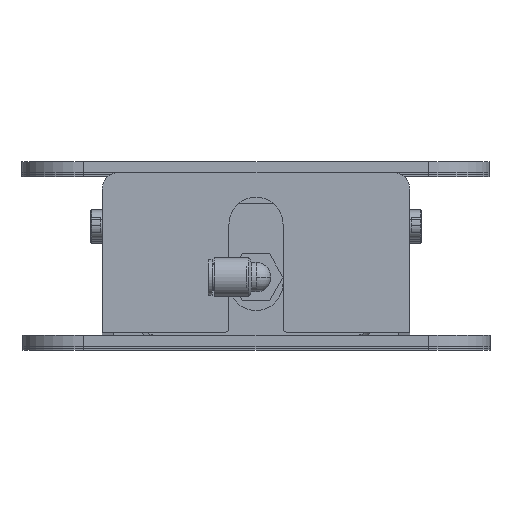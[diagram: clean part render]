
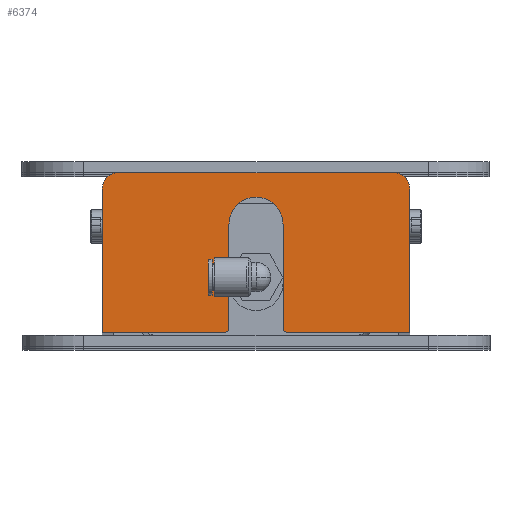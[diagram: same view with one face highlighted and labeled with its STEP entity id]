
A CAD part, top view. The second image highlights one B-rep face of the part: STEP entity #6374.
In plain terms, the highlighted planar face has unit normal (0, 0, 1).
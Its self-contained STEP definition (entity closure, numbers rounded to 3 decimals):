
#45 = VERTEX_POINT ( 'NONE', #7494 ) ;
#87 = AXIS2_PLACEMENT_3D ( 'NONE', #3234, #8115, #3945 ) ;
#248 = EDGE_LOOP ( 'NONE', ( #8595, #3390, #3238, #6671, #5521, #4453, #988, #3228, #268, #8020, #7185, #5479 ) ) ;
#268 = ORIENTED_EDGE ( 'NONE', *, *, #4940, .T. ) ;
#286 = CARTESIAN_POINT ( 'NONE',  ( 62.5, -32.5, 1000. ) ) ;
#363 = PLANE ( 'NONE',  #570 ) ;
#522 = EDGE_CURVE ( 'NONE', #1656, #3233, #2544, .T. ) ;
#570 = AXIS2_PLACEMENT_3D ( 'NONE', #1072, #8083, #3914 ) ;
#578 = CARTESIAN_POINT ( 'NONE',  ( -55.75, 32.5, 1000. ) ) ;
#753 = VERTEX_POINT ( 'NONE', #8327 ) ;
#803 = VERTEX_POINT ( 'NONE', #6333 ) ;
#891 = EDGE_CURVE ( 'NONE', #4866, #4542, #4031, .T. ) ;
#951 = DIRECTION ( 'NONE',  ( 1., 0., 0. ) ) ;
#988 = ORIENTED_EDGE ( 'NONE', *, *, #7020, .T. ) ;
#1072 = CARTESIAN_POINT ( 'NONE',  ( 0., 0., 1000. ) ) ;
#1233 = EDGE_CURVE ( 'NONE', #5850, #6494, #5686, .T. ) ;
#1392 = DIRECTION ( 'NONE',  ( 0., 0., 1. ) ) ;
#1396 = VECTOR ( 'NONE', #5864, 1000. ) ;
#1481 = VECTOR ( 'NONE', #5170, 1000. ) ;
#1493 = AXIS2_PLACEMENT_3D ( 'NONE', #2855, #7746, #3560 ) ;
#1598 = CIRCLE ( 'NONE', #7069, 6.75 ) ;
#1656 = VERTEX_POINT ( 'NONE', #3087 ) ;
#1911 = CARTESIAN_POINT ( 'NONE',  ( -11., -30.5, 1000. ) ) ;
#2093 = VERTEX_POINT ( 'NONE', #5839 ) ;
#2193 = EDGE_CURVE ( 'NONE', #2093, #4542, #5339, .T. ) ;
#2206 = CIRCLE ( 'NONE', #87, 11. ) ;
#2445 = CARTESIAN_POINT ( 'NONE',  ( -13., -30.5, 1000. ) ) ;
#2544 = LINE ( 'NONE', #4530, #5861 ) ;
#2714 = VECTOR ( 'NONE', #4876, 1000. ) ;
#2855 = CARTESIAN_POINT ( 'NONE',  ( -55.75, 25.75, 1000. ) ) ;
#3087 = CARTESIAN_POINT ( 'NONE',  ( -62.5, 25.75, 1000. ) ) ;
#3147 = DIRECTION ( 'NONE',  ( 1., 0., 0. ) ) ;
#3228 = ORIENTED_EDGE ( 'NONE', *, *, #522, .T. ) ;
#3233 = VERTEX_POINT ( 'NONE', #4824 ) ;
#3234 = CARTESIAN_POINT ( 'NONE',  ( 0., 11.5, 1000. ) ) ;
#3238 = ORIENTED_EDGE ( 'NONE', *, *, #4648, .T. ) ;
#3373 = LINE ( 'NONE', #4316, #5055 ) ;
#3390 = ORIENTED_EDGE ( 'NONE', *, *, #8660, .T. ) ;
#3560 = DIRECTION ( 'NONE',  ( 1., 0., 0. ) ) ;
#3886 = CARTESIAN_POINT ( 'NONE',  ( 13., -30.5, 1000. ) ) ;
#3914 = DIRECTION ( 'NONE',  ( 1., 0., 0. ) ) ;
#3945 = DIRECTION ( 'NONE',  ( 1., 0., 0. ) ) ;
#4031 = LINE ( 'NONE', #5038, #7302 ) ;
#4316 = CARTESIAN_POINT ( 'NONE',  ( 11., -32.5, 1000. ) ) ;
#4453 = ORIENTED_EDGE ( 'NONE', *, *, #5831, .T. ) ;
#4485 = CARTESIAN_POINT ( 'NONE',  ( -62.5, -32.5, 1000. ) ) ;
#4530 = CARTESIAN_POINT ( 'NONE',  ( -62.5, 32.5, 1000. ) ) ;
#4542 = VERTEX_POINT ( 'NONE', #1911 ) ;
#4611 = DIRECTION ( 'NONE',  ( 1., 0., 0. ) ) ;
#4614 = LINE ( 'NONE', #7621, #2714 ) ;
#4648 = EDGE_CURVE ( 'NONE', #45, #5850, #4614, .T. ) ;
#4815 = CARTESIAN_POINT ( 'NONE',  ( 62.5, 25.75, 1000. ) ) ;
#4824 = CARTESIAN_POINT ( 'NONE',  ( -62.5, -32.5, 1000. ) ) ;
#4866 = VERTEX_POINT ( 'NONE', #5037 ) ;
#4876 = DIRECTION ( 'NONE',  ( 1., 0., 0. ) ) ;
#4940 = EDGE_CURVE ( 'NONE', #3233, #2093, #8933, .T. ) ;
#5037 = CARTESIAN_POINT ( 'NONE',  ( -11., 11.5, 1000. ) ) ;
#5038 = CARTESIAN_POINT ( 'NONE',  ( -11., 11.5, 1000. ) ) ;
#5055 = VECTOR ( 'NONE', #8469, 1000. ) ;
#5079 = EDGE_CURVE ( 'NONE', #7039, #753, #3373, .T. ) ;
#5170 = DIRECTION ( 'NONE',  ( 0., 1., 0. ) ) ;
#5183 = VECTOR ( 'NONE', #951, 1000. ) ;
#5339 = CIRCLE ( 'NONE', #7064, 2. ) ;
#5479 = ORIENTED_EDGE ( 'NONE', *, *, #8693, .F. ) ;
#5521 = ORIENTED_EDGE ( 'NONE', *, *, #7848, .T. ) ;
#5633 = CARTESIAN_POINT ( 'NONE',  ( 55.75, 25.75, 1000. ) ) ;
#5686 = LINE ( 'NONE', #8478, #1481 ) ;
#5831 = EDGE_CURVE ( 'NONE', #803, #8836, #6768, .T. ) ;
#5839 = CARTESIAN_POINT ( 'NONE',  ( -13., -32.5, 1000. ) ) ;
#5850 = VERTEX_POINT ( 'NONE', #286 ) ;
#5861 = VECTOR ( 'NONE', #7279, 1000. ) ;
#5864 = DIRECTION ( 'NONE',  ( -1., 0., 0. ) ) ;
#5911 = CIRCLE ( 'NONE', #1493, 6.75 ) ;
#6310 = DIRECTION ( 'NONE',  ( 1., 0., 0. ) ) ;
#6333 = CARTESIAN_POINT ( 'NONE',  ( 55.75, 32.5, 1000. ) ) ;
#6374 = ADVANCED_FACE ( 'NONE', ( #6862 ), #363, .T. ) ;
#6386 = AXIS2_PLACEMENT_3D ( 'NONE', #3886, #8763, #4611 ) ;
#6494 = VERTEX_POINT ( 'NONE', #4815 ) ;
#6551 = CARTESIAN_POINT ( 'NONE',  ( -62.5, 32.5, 1000. ) ) ;
#6671 = ORIENTED_EDGE ( 'NONE', *, *, #1233, .T. ) ;
#6768 = LINE ( 'NONE', #6551, #1396 ) ;
#6862 = FACE_OUTER_BOUND ( 'NONE', #248, .T. ) ;
#7020 = EDGE_CURVE ( 'NONE', #8836, #1656, #5911, .T. ) ;
#7039 = VERTEX_POINT ( 'NONE', #7073 ) ;
#7064 = AXIS2_PLACEMENT_3D ( 'NONE', #2445, #7330, #3147 ) ;
#7069 = AXIS2_PLACEMENT_3D ( 'NONE', #5633, #1392, #6310 ) ;
#7073 = CARTESIAN_POINT ( 'NONE',  ( 11., -30.5, 1000. ) ) ;
#7185 = ORIENTED_EDGE ( 'NONE', *, *, #891, .F. ) ;
#7279 = DIRECTION ( 'NONE',  ( 0., -1., 0. ) ) ;
#7302 = VECTOR ( 'NONE', #7815, 1000. ) ;
#7330 = DIRECTION ( 'NONE',  ( 0., 0., 1. ) ) ;
#7494 = CARTESIAN_POINT ( 'NONE',  ( 13., -32.5, 1000. ) ) ;
#7621 = CARTESIAN_POINT ( 'NONE',  ( -62.5, -32.5, 1000. ) ) ;
#7746 = DIRECTION ( 'NONE',  ( 0., 0., 1. ) ) ;
#7815 = DIRECTION ( 'NONE',  ( 0., -1., 0. ) ) ;
#7848 = EDGE_CURVE ( 'NONE', #6494, #803, #1598, .T. ) ;
#8020 = ORIENTED_EDGE ( 'NONE', *, *, #2193, .T. ) ;
#8083 = DIRECTION ( 'NONE',  ( 0., 0., 1. ) ) ;
#8115 = DIRECTION ( 'NONE',  ( 0., 0., 1. ) ) ;
#8327 = CARTESIAN_POINT ( 'NONE',  ( 11., 11.5, 1000. ) ) ;
#8469 = DIRECTION ( 'NONE',  ( 0., 1., 0. ) ) ;
#8478 = CARTESIAN_POINT ( 'NONE',  ( 62.5, 32.5, 1000. ) ) ;
#8595 = ORIENTED_EDGE ( 'NONE', *, *, #5079, .F. ) ;
#8655 = CIRCLE ( 'NONE', #6386, 2. ) ;
#8660 = EDGE_CURVE ( 'NONE', #7039, #45, #8655, .T. ) ;
#8693 = EDGE_CURVE ( 'NONE', #753, #4866, #2206, .T. ) ;
#8763 = DIRECTION ( 'NONE',  ( 0., 0., 1. ) ) ;
#8836 = VERTEX_POINT ( 'NONE', #578 ) ;
#8933 = LINE ( 'NONE', #4485, #5183 ) ;
